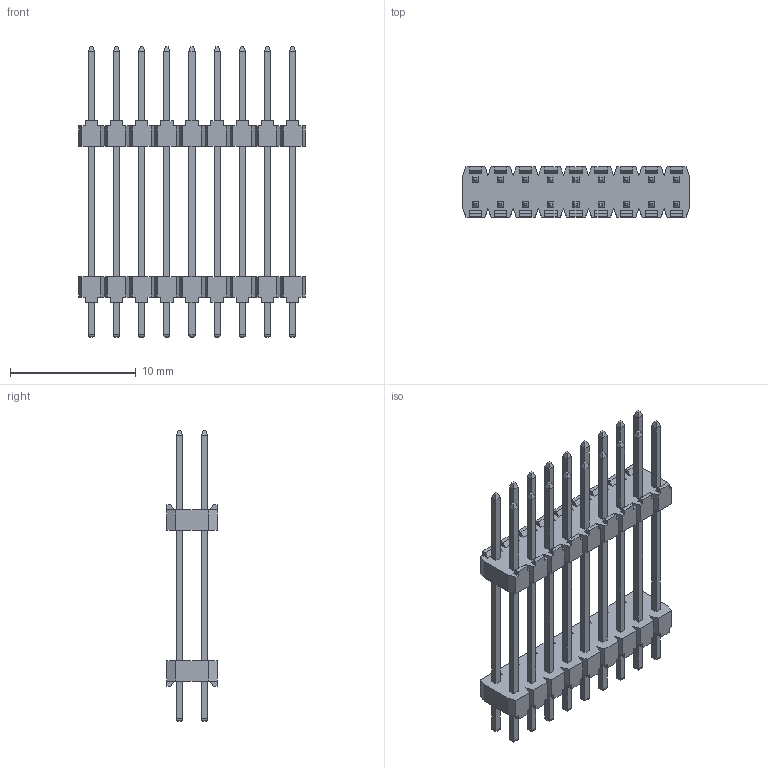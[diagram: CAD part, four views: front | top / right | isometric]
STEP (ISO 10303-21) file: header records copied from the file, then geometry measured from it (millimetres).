
FILE_DESCRIPTION(/* description */ (''),/* implementation_level */ '2;1');
FILE_NAME(/* name */ '951418-8062506-AR',/* time_stamp */ '2007-03-14T10:55:08+01:00',/* author */ (''),/* organization */ (''),/* preprocessor_version */ 'ST-DEVELOPER v9',/* originating_system */ 'UGS - NX 4.0',/* authorisation */ '');
FILE_SCHEMA (('AUTOMOTIVE_DESIGN { 1 0 10303 214 1 1 1 1 }'));
Length unit declared in the file: millimetre
Products named in the file (1): 951418-8062506-AR
Bounding box: 18 x 4 x 23.1 mm (x, y, z)
Volume: 314.9 mm3; surface area: 1195.2 mm2
Topology: 1 solids, 1 shells, 656 faces, 1704 edges, 1088 vertices
Faces by surface type: plane 584, cylinder 72
Entity records: 19600 total; most frequent: CARTESIAN_POINT 3449, ORIENTED_EDGE 3408, DIRECTION 3090, EDGE_CURVE 1704, LINE 1632, VECTOR 1632, VERTEX_POINT 1088, AXIS2_PLACEMENT_3D 729
